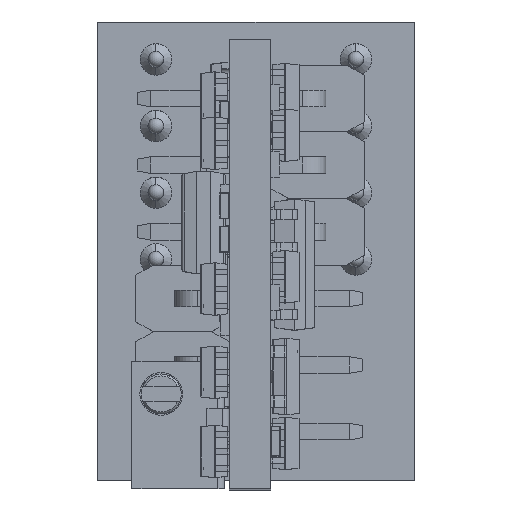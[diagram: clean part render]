
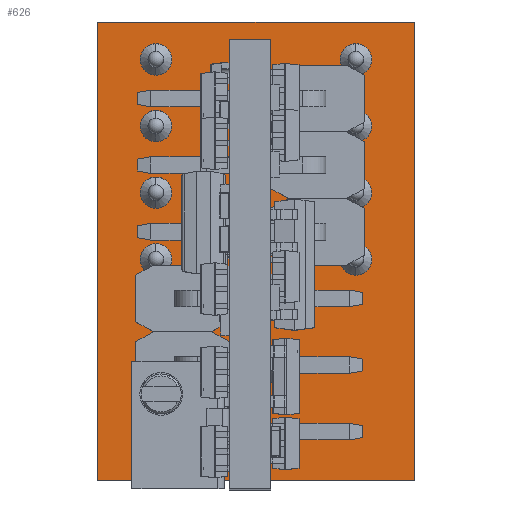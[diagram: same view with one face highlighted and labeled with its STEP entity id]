
A CAD part, top view. The second image highlights one B-rep face of the part: STEP entity #626.
In plain terms, the highlighted planar face has unit normal (0, 0, 1).
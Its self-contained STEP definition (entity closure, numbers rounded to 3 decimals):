
#45 = VERTEX_POINT('',#46);
#46 = CARTESIAN_POINT('',(12.065,17.462,0.));
#63 = VERTEX_POINT('',#64);
#64 = CARTESIAN_POINT('',(12.065,0.,0.));
#70 = EDGE_CURVE('',#45,#63,#71,.T.);
#71 = LINE('',#72,#73);
#72 = CARTESIAN_POINT('',(12.065,17.462,0.));
#73 = VECTOR('',#74,1.);
#74 = DIRECTION('',(0.,-1.,0.));
#94 = VERTEX_POINT('',#95);
#95 = CARTESIAN_POINT('',(0.,0.,0.));
#101 = EDGE_CURVE('',#63,#94,#102,.T.);
#102 = LINE('',#103,#104);
#103 = CARTESIAN_POINT('',(12.065,0.,0.));
#104 = VECTOR('',#105,1.);
#105 = DIRECTION('',(-1.,0.,0.));
#125 = VERTEX_POINT('',#126);
#126 = CARTESIAN_POINT('',(0.,17.462,0.));
#132 = EDGE_CURVE('',#94,#125,#133,.T.);
#133 = LINE('',#134,#135);
#134 = CARTESIAN_POINT('',(0.,0.,0.));
#135 = VECTOR('',#136,1.);
#136 = DIRECTION('',(0.,1.,0.));
#154 = EDGE_CURVE('',#125,#45,#155,.T.);
#155 = LINE('',#156,#157);
#156 = CARTESIAN_POINT('',(0.,17.462,0.));
#157 = VECTOR('',#158,1.);
#158 = DIRECTION('',(1.,0.,0.));
#169 = VERTEX_POINT('',#170);
#170 = CARTESIAN_POINT('',(2.823,16.034,0.));
#186 = EDGE_CURVE('',#169,#169,#187,.T.);
#187 = CIRCLE('',#188,0.6);
#188 = AXIS2_PLACEMENT_3D('',#189,#190,#191);
#189 = CARTESIAN_POINT('',(2.222,16.034,0.));
#190 = DIRECTION('',(0.,0.,-1.));
#191 = DIRECTION('',(1.,0.,0.));
#202 = VERTEX_POINT('',#203);
#203 = CARTESIAN_POINT('',(2.823,13.494,0.));
#219 = EDGE_CURVE('',#202,#202,#220,.T.);
#220 = CIRCLE('',#221,0.6);
#221 = AXIS2_PLACEMENT_3D('',#222,#223,#224);
#222 = CARTESIAN_POINT('',(2.222,13.494,0.));
#223 = DIRECTION('',(0.,0.,-1.));
#224 = DIRECTION('',(1.,0.,0.));
#235 = VERTEX_POINT('',#236);
#236 = CARTESIAN_POINT('',(2.823,10.954,0.));
#252 = EDGE_CURVE('',#235,#235,#253,.T.);
#253 = CIRCLE('',#254,0.6);
#254 = AXIS2_PLACEMENT_3D('',#255,#256,#257);
#255 = CARTESIAN_POINT('',(2.222,10.954,0.));
#256 = DIRECTION('',(0.,0.,-1.));
#257 = DIRECTION('',(1.,0.,0.));
#268 = VERTEX_POINT('',#269);
#269 = CARTESIAN_POINT('',(2.823,8.414,0.));
#285 = EDGE_CURVE('',#268,#268,#286,.T.);
#286 = CIRCLE('',#287,0.6);
#287 = AXIS2_PLACEMENT_3D('',#288,#289,#290);
#288 = CARTESIAN_POINT('',(2.222,8.414,0.));
#289 = DIRECTION('',(0.,0.,-1.));
#290 = DIRECTION('',(1.,0.,0.));
#301 = VERTEX_POINT('',#302);
#302 = CARTESIAN_POINT('',(10.443,16.034,0.));
#318 = EDGE_CURVE('',#301,#301,#319,.T.);
#319 = CIRCLE('',#320,0.6);
#320 = AXIS2_PLACEMENT_3D('',#321,#322,#323);
#321 = CARTESIAN_POINT('',(9.843,16.034,0.));
#322 = DIRECTION('',(0.,0.,-1.));
#323 = DIRECTION('',(1.,0.,0.));
#334 = VERTEX_POINT('',#335);
#335 = CARTESIAN_POINT('',(10.443,13.494,0.));
#351 = EDGE_CURVE('',#334,#334,#352,.T.);
#352 = CIRCLE('',#353,0.6);
#353 = AXIS2_PLACEMENT_3D('',#354,#355,#356);
#354 = CARTESIAN_POINT('',(9.843,13.494,0.));
#355 = DIRECTION('',(0.,0.,-1.));
#356 = DIRECTION('',(1.,0.,0.));
#367 = VERTEX_POINT('',#368);
#368 = CARTESIAN_POINT('',(10.443,10.954,0.));
#384 = EDGE_CURVE('',#367,#367,#385,.T.);
#385 = CIRCLE('',#386,0.6);
#386 = AXIS2_PLACEMENT_3D('',#387,#388,#389);
#387 = CARTESIAN_POINT('',(9.843,10.954,0.));
#388 = DIRECTION('',(0.,0.,-1.));
#389 = DIRECTION('',(1.,0.,0.));
#400 = VERTEX_POINT('',#401);
#401 = CARTESIAN_POINT('',(10.443,8.414,0.));
#417 = EDGE_CURVE('',#400,#400,#418,.T.);
#418 = CIRCLE('',#419,0.6);
#419 = AXIS2_PLACEMENT_3D('',#420,#421,#422);
#420 = CARTESIAN_POINT('',(9.843,8.414,0.));
#421 = DIRECTION('',(0.,0.,-1.));
#422 = DIRECTION('',(1.,0.,0.));
#433 = VERTEX_POINT('',#434);
#434 = CARTESIAN_POINT('',(3.884,1.825,0.));
#450 = EDGE_CURVE('',#433,#433,#451,.T.);
#451 = CIRCLE('',#452,0.55);
#452 = AXIS2_PLACEMENT_3D('',#453,#454,#455);
#453 = CARTESIAN_POINT('',(3.334,1.825,0.));
#454 = DIRECTION('',(0.,0.,-1.));
#455 = DIRECTION('',(1.,0.,0.));
#466 = VERTEX_POINT('',#467);
#467 = CARTESIAN_POINT('',(3.884,4.366,0.));
#483 = EDGE_CURVE('',#466,#466,#484,.T.);
#484 = CIRCLE('',#485,0.55);
#485 = AXIS2_PLACEMENT_3D('',#486,#487,#488);
#486 = CARTESIAN_POINT('',(3.334,4.366,0.));
#487 = DIRECTION('',(0.,0.,-1.));
#488 = DIRECTION('',(1.,0.,0.));
#499 = VERTEX_POINT('',#500);
#500 = CARTESIAN_POINT('',(3.884,6.906,0.));
#516 = EDGE_CURVE('',#499,#499,#517,.T.);
#517 = CIRCLE('',#518,0.55);
#518 = AXIS2_PLACEMENT_3D('',#519,#520,#521);
#519 = CARTESIAN_POINT('',(3.334,6.906,0.));
#520 = DIRECTION('',(0.,0.,-1.));
#521 = DIRECTION('',(1.,0.,0.));
#532 = VERTEX_POINT('',#533);
#533 = CARTESIAN_POINT('',(8.964,9.604,0.));
#549 = EDGE_CURVE('',#532,#532,#550,.T.);
#550 = CIRCLE('',#551,0.55);
#551 = AXIS2_PLACEMENT_3D('',#552,#553,#554);
#552 = CARTESIAN_POINT('',(8.414,9.604,0.));
#553 = DIRECTION('',(0.,0.,-1.));
#554 = DIRECTION('',(1.,0.,0.));
#565 = VERTEX_POINT('',#566);
#566 = CARTESIAN_POINT('',(8.964,12.145,0.));
#582 = EDGE_CURVE('',#565,#565,#583,.T.);
#583 = CIRCLE('',#584,0.55);
#584 = AXIS2_PLACEMENT_3D('',#585,#586,#587);
#585 = CARTESIAN_POINT('',(8.414,12.145,0.));
#586 = DIRECTION('',(0.,0.,-1.));
#587 = DIRECTION('',(1.,0.,0.));
#598 = VERTEX_POINT('',#599);
#599 = CARTESIAN_POINT('',(8.964,14.685,0.));
#615 = EDGE_CURVE('',#598,#598,#616,.T.);
#616 = CIRCLE('',#617,0.55);
#617 = AXIS2_PLACEMENT_3D('',#618,#619,#620);
#618 = CARTESIAN_POINT('',(8.414,14.685,0.));
#619 = DIRECTION('',(0.,0.,-1.));
#620 = DIRECTION('',(1.,0.,0.));
#626 = ADVANCED_FACE('',(#627,#633,#636,#639,#642,#645,#648,#651,#654,
    #657,#660,#663,#666,#669,#672),#675,.T.);
#627 = FACE_BOUND('',#628,.F.);
#628 = EDGE_LOOP('',(#629,#630,#631,#632));
#629 = ORIENTED_EDGE('',*,*,#70,.T.);
#630 = ORIENTED_EDGE('',*,*,#101,.T.);
#631 = ORIENTED_EDGE('',*,*,#132,.T.);
#632 = ORIENTED_EDGE('',*,*,#154,.T.);
#633 = FACE_BOUND('',#634,.F.);
#634 = EDGE_LOOP('',(#635));
#635 = ORIENTED_EDGE('',*,*,#186,.T.);
#636 = FACE_BOUND('',#637,.F.);
#637 = EDGE_LOOP('',(#638));
#638 = ORIENTED_EDGE('',*,*,#219,.T.);
#639 = FACE_BOUND('',#640,.F.);
#640 = EDGE_LOOP('',(#641));
#641 = ORIENTED_EDGE('',*,*,#252,.T.);
#642 = FACE_BOUND('',#643,.F.);
#643 = EDGE_LOOP('',(#644));
#644 = ORIENTED_EDGE('',*,*,#285,.T.);
#645 = FACE_BOUND('',#646,.F.);
#646 = EDGE_LOOP('',(#647));
#647 = ORIENTED_EDGE('',*,*,#318,.T.);
#648 = FACE_BOUND('',#649,.F.);
#649 = EDGE_LOOP('',(#650));
#650 = ORIENTED_EDGE('',*,*,#351,.T.);
#651 = FACE_BOUND('',#652,.F.);
#652 = EDGE_LOOP('',(#653));
#653 = ORIENTED_EDGE('',*,*,#384,.T.);
#654 = FACE_BOUND('',#655,.F.);
#655 = EDGE_LOOP('',(#656));
#656 = ORIENTED_EDGE('',*,*,#417,.T.);
#657 = FACE_BOUND('',#658,.F.);
#658 = EDGE_LOOP('',(#659));
#659 = ORIENTED_EDGE('',*,*,#450,.T.);
#660 = FACE_BOUND('',#661,.F.);
#661 = EDGE_LOOP('',(#662));
#662 = ORIENTED_EDGE('',*,*,#483,.T.);
#663 = FACE_BOUND('',#664,.F.);
#664 = EDGE_LOOP('',(#665));
#665 = ORIENTED_EDGE('',*,*,#516,.T.);
#666 = FACE_BOUND('',#667,.F.);
#667 = EDGE_LOOP('',(#668));
#668 = ORIENTED_EDGE('',*,*,#549,.T.);
#669 = FACE_BOUND('',#670,.F.);
#670 = EDGE_LOOP('',(#671));
#671 = ORIENTED_EDGE('',*,*,#582,.T.);
#672 = FACE_BOUND('',#673,.F.);
#673 = EDGE_LOOP('',(#674));
#674 = ORIENTED_EDGE('',*,*,#615,.T.);
#675 = PLANE('',#676);
#676 = AXIS2_PLACEMENT_3D('',#677,#678,#679);
#677 = CARTESIAN_POINT('',(12.065,17.462,0.));
#678 = DIRECTION('',(0.,0.,1.));
#679 = DIRECTION('',(1.,0.,0.));
